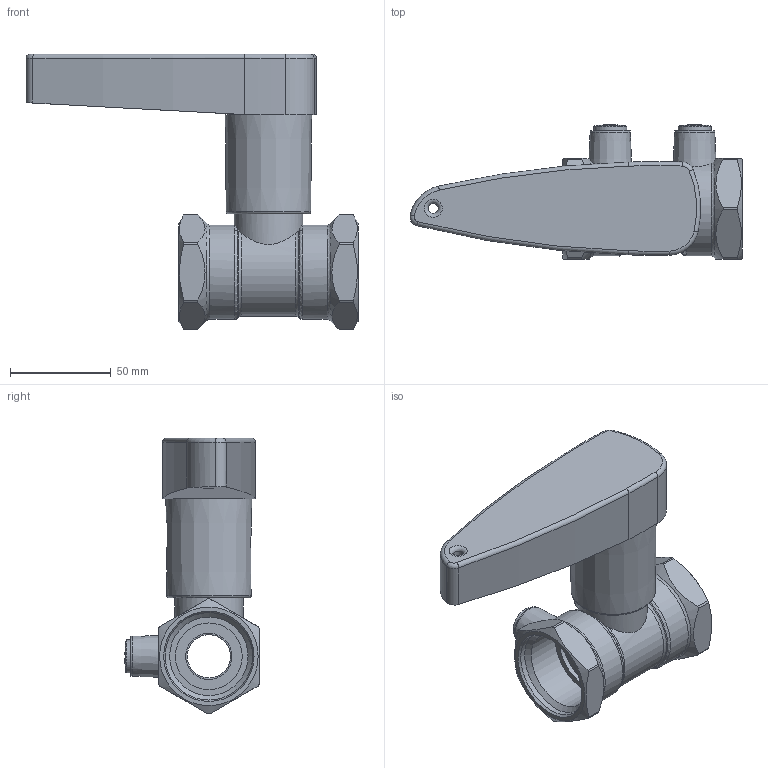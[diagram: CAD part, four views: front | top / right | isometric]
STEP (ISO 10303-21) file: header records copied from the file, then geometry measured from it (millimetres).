
FILE_DESCRIPTION(/* description */ (''),/* implementation_level */ '2;1');
FILE_NAME(/* name */ '\\dataserver\data\Nexus Valves\Inventor\2021_NexusValves Cad\3_Relax\nexus_relax_dn32.stp',/* time_stamp */ '2021-09-03T11:20:42+02:00',/* author */ ('kasius'),/* organization */ (''),/* preprocessor_version */ 'ST-DEVELOPER v17',/* originating_system */ 'Autodesk Inventor 2018',/* authorisation */ '');
FILE_SCHEMA (('AUTOMOTIVE_DESIGN { 1 0 10303 214 3 1 1 }'));
Length unit declared in the file: millimetre
Products named in the file (1): nexus_vertex_dn32
Bounding box: 165 x 66.75 x 136.96 mm (x, y, z)
Volume: 319031.9 mm3; surface area: 55496.3 mm2
Topology: 3 solids, 3 shells, 131 faces, 377 edges, 260 vertices
Faces by surface type: cylinder 41, plane 37, torus 25, cone 22, bspline 6
Full cylindrical faces by diameter (mm): 5 x1, 16.5 x2, 21.5 x1, 23 x4, 33.162 x1, 34 x1, 35 x1, 39 x2, 43.5 x2
Entity records: 4961 total; most frequent: CARTESIAN_POINT 1452, ORIENTED_EDGE 754, DIRECTION 740, EDGE_CURVE 377, AXIS2_PLACEMENT_3D 335, VERTEX_POINT 260, CIRCLE 200, EDGE_LOOP 143
